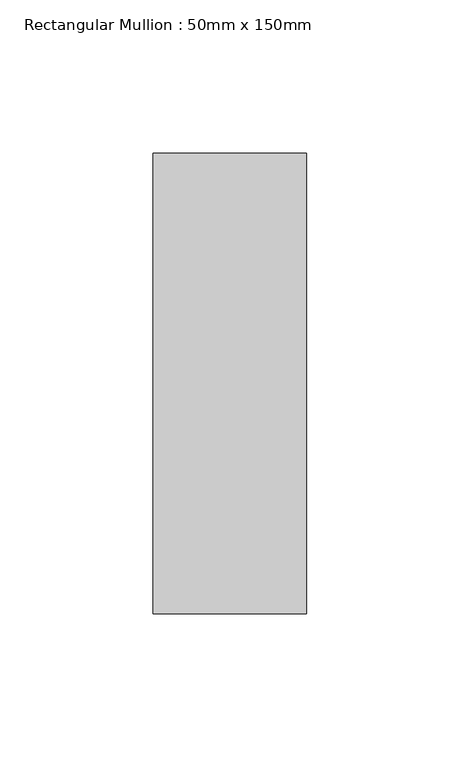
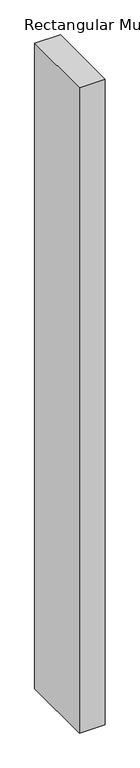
"""IFC4 building model written with IfcOpenShell, lengths in millimetres: member geometry, Rectangular Mullion : 50mm x 150mm."""

from ifc_helpers import new_model, si_unit, frame, origin, place, context, project, spatial, polyline, outline, extrude, source, transform, mapped, element, save


def rectangular_mullion_50mm_x_150mm_8a72a388(model_context):
    return source(origin(), model_context, "Body", "SweptSolid", [
        extrude(outline(polyline([(0.0, 75.0), (0.0, -75.0), (-50.0, -75.0), (-50.0, 75.0), (0.0, 75.0)])), frame((0.0, 0.0, -1325.0000002), z_axis=(0.0, 0.0, 1.0), x_axis=(1.0, 0.0, 0.0)), (0.0, 0.0, 1.0), 1325.0000002),
    ])


if __name__ == "__main__":
    model = new_model("IFC4")
    model_context = context("Model", 3, world=origin())
    ifc_project = project(units=[si_unit("LENGTHUNIT", "METRE", prefix="MILLI")], contexts=[model_context])
    site = spatial("IfcSite", under=ifc_project)
    building = spatial("IfcBuilding", under=site)
    placement = place(None, origin())
    rectangular_mullion_50mm_x_150mm_shape = rectangular_mullion_50mm_x_150mm_8a72a388(model_context)
    element("IfcMember", 1, ObjectType="Rectangular Mullion : 50mm x 150mm", at=placement, inside=building, context=model_context, shape_type="MappedRepresentation", body=[
        mapped(rectangular_mullion_50mm_x_150mm_shape, transform((0.0, 0.0, 0.0), x_axis=(1.0, 0.0, 0.0), y_axis=(0.0, 1.0, 0.0), z_axis=(0.0, 0.0, 1.0))),
    ])
    save(model, "model.ifc")
